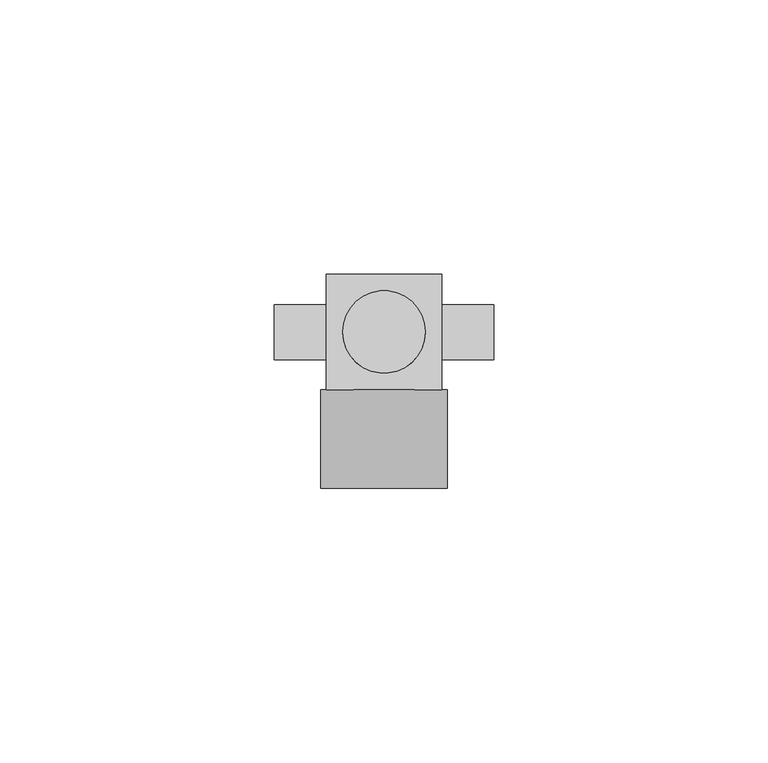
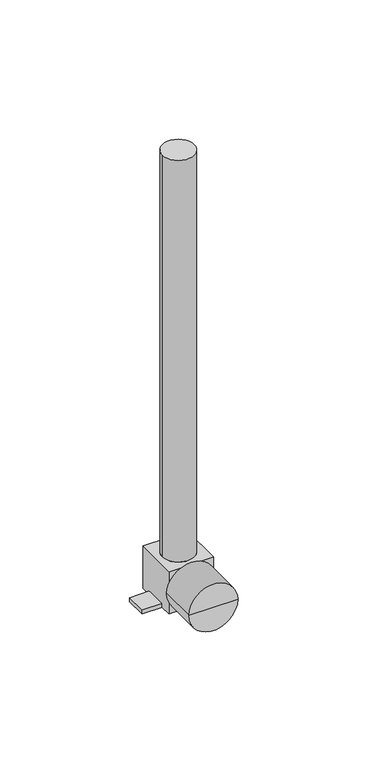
"""IFC4 building model written with IfcOpenShell, lengths in millimetres: pipe fitting geometry, KAN-therm Push kolanko z rurą Cu15 ze wspornikiem L=210 : KAN-therm Push kolanko z rurą Cu15 ze wspornikiem L=210."""

import ifcopenshell
import ifcopenshell.guid

model = None  # the IFC model being written
_history = None  # IfcOwnerHistory: only IFC2X3 demands one
_inside = {}  # id of a spatial element -> (the spatial element, [elements in it])
_under = {}  # id of a project, library or spatial element -> (it, [spatial elements below it])
_declared = {}  # id of a project -> (the project, [libraries it declares])
_typed = {}  # id of a type object -> (the type object, [elements of that type])
_made_of = {}  # id of a material, layer set ... -> (it, [elements and type objects made of it])


def new_model(schema):
    """Start an empty IFC model of exactly this schema.

    Asked for "IFC4X3", IfcOpenShell would pick the latest addendum, in which some entities
    have other attributes; the version numbers below select the first issue.
    IFC2X3 requires an IfcOwnerHistory on every rooted entity: one is made here for all.
    """
    global model, _history
    if schema == "IFC4X3":
        model = ifcopenshell.file(schema_version=(4, 3, 0, 0))
    else:
        model = ifcopenshell.file(schema=schema)
    _inside.clear()
    _under.clear()
    _declared.clear()
    _typed.clear()
    _made_of.clear()
    _history = None
    if model.schema == "IFC2X3":
        org = make("IfcOrganization", Name="unknown")
        user = make(
            "IfcPersonAndOrganization",
            ThePerson=make("IfcPerson", FamilyName="unknown"),
            TheOrganization=org,
        )
        app = make(
            "IfcApplication",
            ApplicationDeveloper=org,
            Version="unknown",
            ApplicationFullName="unknown",
            ApplicationIdentifier="unknown",
        )
        _history = make(
            "IfcOwnerHistory",
            OwningUser=user,
            OwningApplication=app,
            ChangeAction="ADDED",
            CreationDate=0,
        )
    return model


def make(cls, **values):
    """One entity of the class cls with the attributes given. An attribute that is None is left unset."""
    return model.create_entity(
        cls, **{name: value for name, value in values.items() if value is not None}
    )


def rooted(cls, **values):
    """An entity with a GlobalId (a new one), such as an element, a storey or a relation."""
    return make(cls, GlobalId=ifcopenshell.guid.new(), OwnerHistory=_history, **values)


def si_unit(unit_type, name, prefix=None):
    """IfcSIUnit, for example si_unit("LENGTHUNIT", "METRE", prefix="MILLI")."""
    return make("IfcSIUnit", UnitType=unit_type, Prefix=prefix, Name=name)


def assignment(units):
    """IfcUnitAssignment: the units of a project."""
    return None if units is None else make("IfcUnitAssignment", Units=units)


def point(xyz):
    """IfcCartesianPoint."""
    return None if xyz is None else make("IfcCartesianPoint", Coordinates=xyz)


def direction(xyz):
    """IfcDirection."""
    return None if xyz is None else make("IfcDirection", DirectionRatios=xyz)


def frame(location, z_axis=None, x_axis=None):
    """IfcAxis2Placement3D, a coordinate frame: its origin and axes. An axis left out is left unset."""
    return make(
        "IfcAxis2Placement3D",
        Location=point(location),
        Axis=direction(z_axis),
        RefDirection=direction(x_axis),
    )


def origin():
    """The frame at (0, 0, 0) with its axes left unset."""
    return frame((0.0, 0.0, 0.0))


def origin_with_axes():
    """The frame at (0, 0, 0) with the z axis (0, 0, 1) and the x axis (1, 0, 0) written out."""
    return frame((0.0, 0.0, 0.0), z_axis=(0.0, 0.0, 1.0), x_axis=(1.0, 0.0, 0.0))


def place(relative_to, where):
    """IfcLocalPlacement: puts the frame where relative to a parent placement (None: the world)."""
    return make(
        "IfcLocalPlacement", PlacementRelTo=relative_to, RelativePlacement=where
    )


def context(
    kind, dimensions, precision=None, world=None, true_north=None, identifier=None
):
    """IfcGeometricRepresentationContext, for example the 3D "Model" context."""
    return make(
        "IfcGeometricRepresentationContext",
        ContextIdentifier=identifier,
        ContextType=kind,
        CoordinateSpaceDimension=dimensions,
        Precision=precision,
        WorldCoordinateSystem=world,
        TrueNorth=true_north,
    )


def project(units=None, contexts=None):
    """IfcProject with its units and contexts."""
    return rooted(
        "IfcProject",
        Name="project",
        RepresentationContexts=contexts,
        UnitsInContext=assignment(units),
    )


def spatial(cls, under=None, at=None, **own):
    """A site, building, storey or space (cls), placed at a placement, below another one or the project."""
    s = rooted(cls, ObjectPlacement=at, **own)
    if under is not None:
        _under.setdefault(under.id(), (under, []))[1].append(s)
    return s


def circle_curve(where, radius):
    """IfcCircle in the frame where."""
    return make("IfcCircle", Position=where, Radius=radius)


def shape(context_of_items, identifier, shape_type, items):
    """IfcShapeRepresentation: the items that make up one representation, for example the "Body"."""
    return make(
        "IfcShapeRepresentation",
        ContextOfItems=context_of_items,
        RepresentationIdentifier=identifier,
        RepresentationType=shape_type,
        Items=items,
    )


def source(mapping_origin, context_of_items, identifier, shape_type, items):
    """IfcRepresentationMap: a shape defined once, which mapped items show again and again."""
    return make(
        "IfcRepresentationMap",
        MappingOrigin=mapping_origin,
        MappedRepresentation=shape(context_of_items, identifier, shape_type, items),
    )


def transform(
    local_origin,
    x_axis=None,
    y_axis=None,
    z_axis=None,
    scale=None,
    scale2=None,
    scale3=None,
    uniform=True,
):
    """IfcCartesianTransformationOperator3D, or its non-uniform kind. x_axis, y_axis, z_axis: its Axis1, 2, 3."""
    if uniform:
        return make(
            "IfcCartesianTransformationOperator3D",
            Axis1=direction(x_axis),
            Axis2=direction(y_axis),
            LocalOrigin=point(local_origin),
            Scale=scale,
            Axis3=direction(z_axis),
        )
    return make(
        "IfcCartesianTransformationOperator3DnonUniform",
        Axis1=direction(x_axis),
        Axis2=direction(y_axis),
        LocalOrigin=point(local_origin),
        Scale=scale,
        Axis3=direction(z_axis),
        Scale2=scale2,
        Scale3=scale3,
    )


def mapped(mapping_source, mapping_target):
    """IfcMappedItem: shows the shape of a source again, moved by a transform."""
    return make(
        "IfcMappedItem", MappingSource=mapping_source, MappingTarget=mapping_target
    )


def made_of(thing, what):
    """Note that an element or type object is made of a material, layer set ...; save() writes the relation."""
    if what is not None:
        _made_of.setdefault(what.id(), (what, []))[1].append(thing)
    return thing


def element(
    cls,
    number,
    at=None,
    inside=None,
    cuts=None,
    type_object=None,
    material=None,
    context=None,
    identifier="Body",
    shape_type=None,
    held_by="IfcProductDefinitionShape",
    body=None,
    shapes=None,
    **own,
):
    """One element of the class cls, such as IfcWall. Its Tag is "e" and its number.

    at: its placement. inside: the storey or other place that contains it. cuts: it is an
    opening in that element (IfcRelVoidsElement). A single representation is given by context,
    identifier, shape_type and body (its items); several are given by shapes. held_by: the class
    of the entity that holds the representations. save() writes the other relations.
    """
    e = rooted(cls, Tag="e%d" % number, ObjectPlacement=at, **own)
    if body is not None:
        shapes = [shape(context, identifier, shape_type, body)]
    if shapes is not None:
        e.Representation = make(held_by, Representations=shapes)
    if inside is not None:
        _inside.setdefault(inside.id(), (inside, []))[1].append(e)
    if cuts is not None:
        rooted(
            "IfcRelVoidsElement", RelatingBuildingElement=cuts, RelatedOpeningElement=e
        )
    if type_object is not None:
        _typed.setdefault(type_object.id(), (type_object, []))[1].append(e)
    return made_of(e, material)


def aggregate(whole, parts):
    """IfcRelAggregates: a whole, such as a stair, and the parts it consists of."""
    return rooted("IfcRelAggregates", RelatingObject=whole, RelatedObjects=parts)


def save(model, path):
    """Write the relations noted so far, then the file.

    IfcRelAggregates (storeys below a building ...), IfcRelContainedInSpatialStructure (elements
    in a storey), IfcRelDefinesByType, IfcRelAssociatesMaterial and IfcRelDeclares: one each for
    every whole, place, type object, material and project.
    """
    for whole, parts in _under.values():
        aggregate(whole, parts)
    for where, things in _inside.values():
        rooted(
            "IfcRelContainedInSpatialStructure",
            RelatedElements=things,
            RelatingStructure=where,
        )
    for kind, things in _typed.values():
        rooted("IfcRelDefinesByType", RelatedObjects=things, RelatingType=kind)
    for what, things in _made_of.values():
        rooted("IfcRelAssociatesMaterial", RelatedObjects=things, RelatingMaterial=what)
    for by, libraries in _declared.values():
        rooted("IfcRelDeclares", RelatingContext=by, RelatedDefinitions=libraries)
    model.write(path)


def plane_surface(at):
    """IfcPlane: the flat surface through the origin of the frame at, square to its z axis."""
    return make("IfcPlane", Position=at)


def cylinder_surface(at, radius):
    """IfcCylindricalSurface: all points at the distance radius from the z axis of the frame at."""
    return make("IfcCylindricalSurface", Position=at, Radius=radius)


def advanced_brep(points, edges, surfaces, faces):
    """IfcAdvancedBrep: a solid bounded by faces that lie on surfaces and meet in shared edges.

    An edge is (start, end): straight between two places in points (the first is 0);
    or (start, end, curve); or (start, end, curve, False) where it runs against its curve.
    A face is (place in surfaces, loops), or (place, loops, False) where it looks against
    its surface's normal. A loop lists edges by number (the first is 1), with a minus sign
    where the edge is run from its end to its start. The first loop is the outer one.
    """
    corners = [point(p) for p in points]
    vertices = [make("IfcVertexPoint", VertexGeometry=c) for c in corners]
    made = []
    for start, end, *more in edges:
        made.append(
            make(
                "IfcEdgeCurve",
                EdgeStart=vertices[start],
                EdgeEnd=vertices[end],
                EdgeGeometry=more[0] if more else make("IfcPolyline", Points=[corners[start], corners[end]]),
                SameSense=more[1] if len(more) > 1 else True,
            )
        )
    hull = []
    for where, loops, *sense in faces:
        bounds = []
        for j, loop in enumerate(loops):
            ring = [make("IfcOrientedEdge", EdgeElement=made[abs(k) - 1], Orientation=k > 0) for k in loop]
            bounds.append(
                make(
                    "IfcFaceOuterBound" if j == 0 else "IfcFaceBound",
                    Bound=make("IfcEdgeLoop", EdgeList=ring),
                    Orientation=True,
                )
            )
        hull.append(make("IfcAdvancedFace", Bounds=bounds, FaceSurface=surfaces[where], SameSense=sense[0] if sense else True))
    return make("IfcAdvancedBrep", Outer=make("IfcClosedShell", CfsFaces=hull))


def pipe_fitting_42ea6e93(model_context):
    return source(origin(), model_context, "Body", "AdvancedBrep", [
        advanced_brep(
        [(-11.5, -28.5, 0.0), (11.5, -28.5, 0.0), (0.0, -28.5, 0.0), (-11.5, -10.5, 0.0), (11.5, -10.5, 0.0), (0.0, -10.5, 0.0)],
        [
            (0, 1, circle_curve(frame((0.0, -28.5, 0.0), z_axis=(0.0, -1.0, 0.0), x_axis=(1.0000000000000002, 0.0, 0.0)), 11.5)),
            (1, 2),
            (2, 0),
            (1, 0, circle_curve(frame((0.0, -28.5, 0.0), z_axis=(0.0, -1.0, 0.0), x_axis=(1.0000000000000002, 0.0, 0.0)), 11.5)),
            (3, 4, circle_curve(frame((0.0, -10.5, 0.0), z_axis=(0.0, -1.0, 0.0), x_axis=(1.0000000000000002, 0.0, 0.0)), 11.5)),
            (4, 1),
            (0, 3),
            (4, 3, circle_curve(frame((0.0, -10.5, 0.0), z_axis=(0.0, -1.0, 0.0), x_axis=(1.0000000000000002, 0.0, 0.0)), 11.5)),
            (5, 4),
            (3, 5),
        ],
        [
            plane_surface(frame((0.0, -28.5, 0.0), z_axis=(0.0, -1.0, 0.0), x_axis=(1.0, 0.0, 0.0))),
            cylinder_surface(frame((0.0, -2005.5, 0.0), z_axis=(0.0, 1.0000000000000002, 0.0), x_axis=(1.0000000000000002, 0.0, 0.0)), 11.5),
            plane_surface(frame((0.0, -10.5, 0.0), z_axis=(0.0, 1.0, 0.0), x_axis=(1.0, 0.0, 0.0))),
        ],
        [
            (0, [[1, 2, 3]]),
            (0, [[4, -3, -2]]),
            (1, [[5, 6, -1, 7]]),
            (1, [[8, -7, -4, -6]]),
            (2, [[9, -5, 10]]),
            (2, [[-10, -8, -9]]),
        ],
    ),
        advanced_brep(
        [(10.5, -10.5, 10.5), (10.5, 10.5, 10.5), (-10.5, 10.5, 10.5), (-10.5, -10.5, 10.5), (7.5, 0.0, 10.5), (-7.5, 0.0, 10.5), (10.5, -10.5, -10.5), (-10.5, -10.5, -10.5), (-10.5, -5.0, -10.5), (-20.0, -5.0, -10.5), (-20.0, 5.0, -10.5), (-10.5, 5.0, -10.5), (-10.5, 10.5, -10.5), (10.5, 10.5, -10.5), (10.5, 5.0, -10.5), (20.0, 5.0, -10.5), (20.0, -5.0, -10.5), (10.5, -5.0, -10.5), (-7.5, 0.0, 210.0), (7.5, 0.0, 210.0), (10.5, -5.0, -8.5), (10.5, 5.0, -8.5), (-10.5, 5.0, -8.5), (-10.5, -5.0, -8.5), (20.0, -5.0, -8.5), (20.0, 5.0, -8.5), (-20.0, 5.0, -8.5), (-20.0, -5.0, -8.5)],
        [
            (0, 1),
            (1, 2),
            (2, 3),
            (3, 0),
            (4, 5, circle_curve(frame((0.0, 0.0, 10.5), z_axis=(0.0, 0.0, -1.0), x_axis=(1.0, 0.0, 0.0)), 7.5)),
            (5, 4, circle_curve(frame((0.0, 0.0, 10.5), z_axis=(0.0, 0.0, -1.0), x_axis=(1.0, 0.0, 0.0)), 7.5)),
            (6, 7),
            (7, 8),
            (8, 9),
            (9, 10),
            (10, 11),
            (11, 12),
            (12, 13),
            (13, 14),
            (14, 15),
            (15, 16),
            (16, 17),
            (17, 6),
            (18, 19, circle_curve(frame((0.0, 0.0, 210.0), z_axis=(0.0, 0.0, 1.0), x_axis=(1.0, 0.0, 0.0)), 7.5)),
            (19, 18, circle_curve(frame((0.0, 0.0, 210.0), z_axis=(0.0, 0.0, 1.0), x_axis=(1.0, 0.0, 0.0)), 7.5)),
            (18, 5),
            (4, 19),
            (0, 6),
            (17, 20),
            (20, 21),
            (21, 14),
            (13, 1),
            (12, 2),
            (11, 22),
            (22, 23),
            (23, 8),
            (7, 3),
            (24, 25),
            (25, 21),
            (20, 24),
            (26, 27),
            (27, 23),
            (22, 26),
            (27, 9),
            (16, 24),
            (15, 25),
            (10, 26),
        ],
        [
            plane_surface(frame((10.5, 10.5, 10.5), z_axis=(0.0, 0.0, 1.0), x_axis=(0.0, 1.0, 0.0))),
            plane_surface(frame((10.5, 10.5, -10.5), z_axis=(0.0, 0.0, -1.0), x_axis=(0.0, -1.0, 0.0))),
            plane_surface(frame((7.5, 0.0, 210.0), z_axis=(0.0, 0.0, 1.0), x_axis=(0.0, 1.0, 0.0))),
            cylinder_surface(origin_with_axes(), 7.5),
            plane_surface(frame((10.5, -10.5, 10.5), z_axis=(1.0, 0.0, 0.0), x_axis=(0.0, 0.0, -1.0))),
            plane_surface(frame((10.5, 10.5, 10.5), z_axis=(0.0, 1.0, 0.0), x_axis=(0.0, 0.0, -1.0))),
            plane_surface(frame((-10.5, 10.5, 10.5), z_axis=(-1.0, 0.0, 0.0), x_axis=(0.0, 0.0, -1.0))),
            plane_surface(frame((-10.5, -10.5, 10.5), z_axis=(0.0, -1.0, 0.0), x_axis=(0.0, 0.0, -1.0))),
            plane_surface(frame((2000.0, -5.0, -8.5), z_axis=(0.0, 0.0, 1.0), x_axis=(1.0, 0.0, 0.0))),
            plane_surface(frame((-20.0, -5.0, -8.5), z_axis=(0.0, -1.0, 0.0), x_axis=(0.0, 0.0, -1.0))),
            plane_surface(frame((20.0, -5.0, -8.5), z_axis=(1.0, 0.0, 0.0), x_axis=(0.0, 0.0, -1.0))),
            plane_surface(frame((20.0, 5.0, -8.5), z_axis=(0.0, 1.0, 0.0), x_axis=(0.0, 0.0, -1.0))),
            plane_surface(frame((-20.0, 5.0, -8.5), z_axis=(-1.0, 0.0, 0.0), x_axis=(0.0, 0.0, -1.0))),
        ],
        [
            (0, [[1, 2, 3, 4], [5, 6]]),
            (1, [[7, 8, 9, 10, 11, 12, 13, 14, 15, 16, 17, 18]]),
            (2, [[19, 20]]),
            (3, [[-19, 21, -5, 22]]),
            (3, [[-20, -22, -6, -21]]),
            (4, [[-1, 23, -18, 24, 25, 26, -14, 27]]),
            (5, [[-2, -27, -13, 28]]),
            (6, [[-3, -28, -12, 29, 30, 31, -8, 32]]),
            (7, [[-4, -32, -7, -23]]),
            (8, [[33, 34, -25, 35]]),
            (8, [[36, 37, -30, 38]]),
            (9, [[39, -9, -31, -37]]),
            (9, [[40, -35, -24, -17]]),
            (10, [[-33, -40, -16, 41]]),
            (11, [[-41, -15, -26, -34]]),
            (11, [[42, -38, -29, -11]]),
            (12, [[-36, -42, -10, -39]]),
        ],
    ),
    ])


if __name__ == "__main__":
    model = new_model("IFC4")
    model_context = context("Model", 3, world=origin())
    ifc_project = project(units=[si_unit("LENGTHUNIT", "METRE", prefix="MILLI")], contexts=[model_context])
    site = spatial("IfcSite", under=ifc_project)
    building = spatial("IfcBuilding", under=site)
    placement = place(None, origin())
    pipe_fitting_shape = pipe_fitting_42ea6e93(model_context)
    element("IfcPipeFitting", 1, ObjectType="KAN-therm Push kolanko z rurą Cu15 ze wspornikiem L=210 : KAN-therm Push kolanko z rurą Cu15 ze wspornikiem L=210", at=placement, inside=building, context=model_context, shape_type="MappedRepresentation", body=[
        mapped(pipe_fitting_shape, transform((0.0, 0.0, 0.0), x_axis=(1.0, 0.0, 0.0), y_axis=(0.0, 1.0, 0.0), z_axis=(0.0, 0.0, 1.0))),
    ])
    save(model, "model.ifc")
